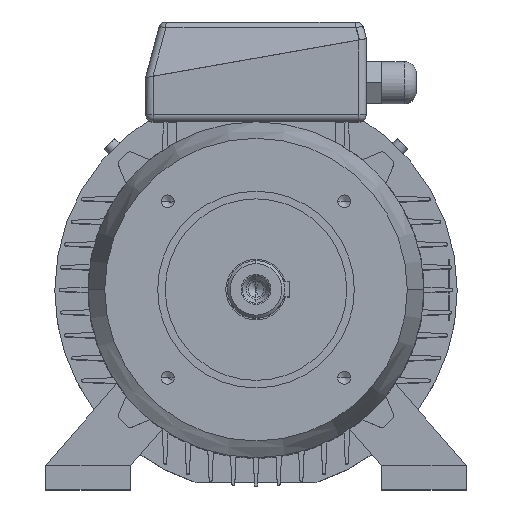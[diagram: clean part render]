
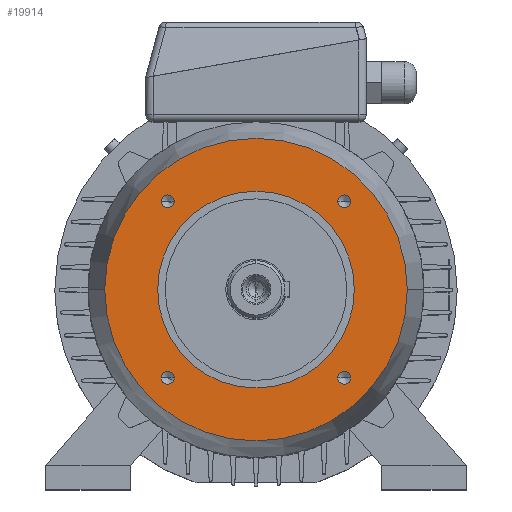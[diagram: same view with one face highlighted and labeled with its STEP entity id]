
A CAD part, top view. The second image highlights one B-rep face of the part: STEP entity #19914.
In plain terms, the highlighted planar face has unit normal (0, 0, 1).
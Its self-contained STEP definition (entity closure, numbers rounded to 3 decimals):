
#16631 = CARTESIAN_POINT ( 'NONE',  ( 62.586, -58.336, 58. ) ) ;
#16648 = VERTEX_POINT ( 'NONE', #16631 ) ;
#16789 = CIRCLE ( 'NONE', #16790, 100. ) ;
#16790 = AXIS2_PLACEMENT_3D ( 'NONE', #16791, #16792, #16793 ) ;
#16791 = CARTESIAN_POINT ( 'NONE',  ( 0., 0., 58. ) ) ;
#16792 = DIRECTION ( 'NONE',  ( 0., 0., 1. ) ) ;
#16793 = DIRECTION ( 'NONE',  ( 1., 0., 0. ) ) ;
#16874 = EDGE_CURVE ( 'NONE', #13652, #13910, #16789, .T. ) ;
#17068 = ORIENTED_EDGE ( 'NONE', *, *, #16874, .T. ) ;
#693 = EDGE_LOOP ( 'NONE', ( #10885, #9862 ) ) ;
#767 = ORIENTED_EDGE ( 'NONE', *, *, #18367, .F. ) ;
#1157 = EDGE_CURVE ( 'NONE', #18110, #19406, #3518, .T. ) ;
#17697 = EDGE_LOOP ( 'NONE', ( #17068, #4629 ) ) ;
#17884 = CARTESIAN_POINT ( 'NONE',  ( -54.086, -58.336, 58. ) ) ;
#1600 = ORIENTED_EDGE ( 'NONE', *, *, #1157, .F. ) ;
#17976 = ORIENTED_EDGE ( 'NONE', *, *, #4173, .F. ) ;
#18098 = CIRCLE ( 'NONE', #18099, 4.25 ) ;
#18099 = AXIS2_PLACEMENT_3D ( 'NONE', #18100, #18101, #18112 ) ;
#18100 = CARTESIAN_POINT ( 'NONE',  ( -58.336, -58.336, 58. ) ) ;
#18101 = DIRECTION ( 'NONE',  ( 0., 0., 1. ) ) ;
#18110 = VERTEX_POINT ( 'NONE', #17884 ) ;
#18112 = DIRECTION ( 'NONE',  ( 1., 0., 0. ) ) ;
#18260 = CIRCLE ( 'NONE', #18261, 4.25 ) ;
#18261 = AXIS2_PLACEMENT_3D ( 'NONE', #18262, #18263, #18264 ) ;
#18262 = CARTESIAN_POINT ( 'NONE',  ( 58.336, 58.336, 58. ) ) ;
#18263 = DIRECTION ( 'NONE',  ( 0., 0., 1. ) ) ;
#18264 = DIRECTION ( 'NONE',  ( 1., 0., 0. ) ) ;
#18367 = EDGE_CURVE ( 'NONE', #19406, #18110, #18098, .T. ) ;
#18585 = EDGE_CURVE ( 'NONE', #3926, #5220, #18260, .T. ) ;
#2214 = EDGE_LOOP ( 'NONE', ( #1600, #767 ) ) ;
#2497 = EDGE_CURVE ( 'NONE', #3366, #3628, #4404, .T. ) ;
#19021 = ORIENTED_EDGE ( 'NONE', *, *, #18585, .F. ) ;
#19051 = CARTESIAN_POINT ( 'NONE',  ( -62.586, -58.336, 58. ) ) ;
#2949 = ORIENTED_EDGE ( 'NONE', *, *, #2497, .F. ) ;
#19406 = VERTEX_POINT ( 'NONE', #19051 ) ;
#19500 = FACE_BOUND ( 'NONE', #19626, .T. ) ;
#19501 = FACE_OUTER_BOUND ( 'NONE', #17697, .T. ) ;
#19502 = FACE_BOUND ( 'NONE', #4347, .T. ) ;
#19503 = FACE_BOUND ( 'NONE', #2214, .T. ) ;
#19504 = FACE_BOUND ( 'NONE', #693, .T. ) ;
#19505 = FACE_BOUND ( 'NONE', #9568, .T. ) ;
#19506 = PLANE ( 'NONE',  #19507 ) ;
#19507 = AXIS2_PLACEMENT_3D ( 'NONE', #19508, #19509, #19510 ) ;
#19508 = CARTESIAN_POINT ( 'NONE',  ( 0., 100., 58. ) ) ;
#19509 = DIRECTION ( 'NONE',  ( 0., 0., -1. ) ) ;
#19510 = DIRECTION ( 'NONE',  ( -1., 0., 0. ) ) ;
#19626 = EDGE_LOOP ( 'NONE', ( #19021, #17976 ) ) ;
#3366 = VERTEX_POINT ( 'NONE', #4876 ) ;
#3518 = CIRCLE ( 'NONE', #3519, 4.25 ) ;
#3519 = AXIS2_PLACEMENT_3D ( 'NONE', #3520, #3521, #3522 ) ;
#3520 = CARTESIAN_POINT ( 'NONE',  ( -58.336, -58.336, 58. ) ) ;
#3521 = DIRECTION ( 'NONE',  ( 0., 0., 1. ) ) ;
#3522 = DIRECTION ( 'NONE',  ( 1., 0., 0. ) ) ;
#19914 = ADVANCED_FACE ( 'NONE', ( #19500, #19501, #19502, #19503, #19504, #19505 ), #19506, .F. ) ;
#3556 = ORIENTED_EDGE ( 'NONE', *, *, #3882, .F. ) ;
#3628 = VERTEX_POINT ( 'NONE', #5093 ) ;
#3882 = EDGE_CURVE ( 'NONE', #3628, #3366, #5286, .T. ) ;
#3926 = VERTEX_POINT ( 'NONE', #5315 ) ;
#4173 = EDGE_CURVE ( 'NONE', #5220, #3926, #5441, .T. ) ;
#4347 = EDGE_LOOP ( 'NONE', ( #3556, #2949 ) ) ;
#4404 = CIRCLE ( 'NONE', #4405, 65. ) ;
#4405 = AXIS2_PLACEMENT_3D ( 'NONE', #4410, #4411, #4412 ) ;
#4410 = CARTESIAN_POINT ( 'NONE',  ( 0., 0., 58. ) ) ;
#4411 = DIRECTION ( 'NONE',  ( 0., 0., 1. ) ) ;
#4412 = DIRECTION ( 'NONE',  ( 1., 0., 0. ) ) ;
#4629 = ORIENTED_EDGE ( 'NONE', *, *, #14165, .T. ) ;
#4876 = CARTESIAN_POINT ( 'NONE',  ( -65., 0., 58. ) ) ;
#5093 = CARTESIAN_POINT ( 'NONE',  ( 65., 0., 58. ) ) ;
#5220 = VERTEX_POINT ( 'NONE', #6086 ) ;
#5286 = CIRCLE ( 'NONE', #5287, 65. ) ;
#5287 = AXIS2_PLACEMENT_3D ( 'NONE', #5288, #5289, #5290 ) ;
#5288 = CARTESIAN_POINT ( 'NONE',  ( 0., 0., 58. ) ) ;
#5289 = DIRECTION ( 'NONE',  ( 0., 0., 1. ) ) ;
#5290 = DIRECTION ( 'NONE',  ( 1., 0., 0. ) ) ;
#5315 = CARTESIAN_POINT ( 'NONE',  ( 62.586, 58.336, 58. ) ) ;
#5441 = CIRCLE ( 'NONE', #5442, 4.25 ) ;
#5442 = AXIS2_PLACEMENT_3D ( 'NONE', #5443, #5444, #5445 ) ;
#5443 = CARTESIAN_POINT ( 'NONE',  ( 58.336, 58.336, 58. ) ) ;
#5444 = DIRECTION ( 'NONE',  ( 0., 0., 1. ) ) ;
#5445 = DIRECTION ( 'NONE',  ( 1., 0., 0. ) ) ;
#5607 = EDGE_CURVE ( 'NONE', #6684, #16648, #6391, .T. ) ;
#6086 = CARTESIAN_POINT ( 'NONE',  ( 54.086, 58.336, 58. ) ) ;
#6391 = CIRCLE ( 'NONE', #6392, 4.25 ) ;
#6392 = AXIS2_PLACEMENT_3D ( 'NONE', #6393, #6399, #6400 ) ;
#6393 = CARTESIAN_POINT ( 'NONE',  ( 58.336, -58.336, 58. ) ) ;
#6399 = DIRECTION ( 'NONE',  ( 0., 0., 1. ) ) ;
#6400 = DIRECTION ( 'NONE',  ( 1., 0., 0. ) ) ;
#6684 = VERTEX_POINT ( 'NONE', #7301 ) ;
#7301 = CARTESIAN_POINT ( 'NONE',  ( 54.086, -58.336, 58. ) ) ;
#7870 = ORIENTED_EDGE ( 'NONE', *, *, #14311, .F. ) ;
#8484 = EDGE_CURVE ( 'NONE', #14034, #15360, #9059, .T. ) ;
#8933 = ORIENTED_EDGE ( 'NONE', *, *, #8484, .F. ) ;
#9059 = CIRCLE ( 'NONE', #9065, 4.25 ) ;
#9065 = AXIS2_PLACEMENT_3D ( 'NONE', #9066, #9067, #9068 ) ;
#9066 = CARTESIAN_POINT ( 'NONE',  ( -58.336, 58.336, 58. ) ) ;
#9067 = DIRECTION ( 'NONE',  ( 0., 0., 1. ) ) ;
#9068 = DIRECTION ( 'NONE',  ( 1., 0., 0. ) ) ;
#9568 = EDGE_LOOP ( 'NONE', ( #8933, #7870 ) ) ;
#9862 = ORIENTED_EDGE ( 'NONE', *, *, #5607, .F. ) ;
#10474 = EDGE_CURVE ( 'NONE', #16648, #6684, #11035, .T. ) ;
#10885 = ORIENTED_EDGE ( 'NONE', *, *, #10474, .F. ) ;
#11035 = CIRCLE ( 'NONE', #11036, 4.25 ) ;
#11036 = AXIS2_PLACEMENT_3D ( 'NONE', #11037, #11038, #11039 ) ;
#11037 = CARTESIAN_POINT ( 'NONE',  ( 58.336, -58.336, 58. ) ) ;
#11038 = DIRECTION ( 'NONE',  ( 0., 0., 1. ) ) ;
#11039 = DIRECTION ( 'NONE',  ( 1., 0., 0. ) ) ;
#13617 = CARTESIAN_POINT ( 'NONE',  ( -100., 0., 58. ) ) ;
#13652 = VERTEX_POINT ( 'NONE', #13617 ) ;
#13897 = CARTESIAN_POINT ( 'NONE',  ( 100., 0., 58. ) ) ;
#13910 = VERTEX_POINT ( 'NONE', #13897 ) ;
#13964 = CARTESIAN_POINT ( 'NONE',  ( -54.086, 58.336, 58. ) ) ;
#14034 = VERTEX_POINT ( 'NONE', #13964 ) ;
#14048 = CIRCLE ( 'NONE', #14049, 100. ) ;
#14049 = AXIS2_PLACEMENT_3D ( 'NONE', #14050, #14051, #14052 ) ;
#14050 = CARTESIAN_POINT ( 'NONE',  ( 0., 0., 58. ) ) ;
#14051 = DIRECTION ( 'NONE',  ( 0., 0., 1. ) ) ;
#14052 = DIRECTION ( 'NONE',  ( 1., 0., 0. ) ) ;
#14152 = CIRCLE ( 'NONE', #14153, 4.25 ) ;
#14153 = AXIS2_PLACEMENT_3D ( 'NONE', #14154, #14155, #14156 ) ;
#14154 = CARTESIAN_POINT ( 'NONE',  ( -58.336, 58.336, 58. ) ) ;
#14155 = DIRECTION ( 'NONE',  ( 0., 0., 1. ) ) ;
#14156 = DIRECTION ( 'NONE',  ( 1., 0., 0. ) ) ;
#14165 = EDGE_CURVE ( 'NONE', #13910, #13652, #14048, .T. ) ;
#14311 = EDGE_CURVE ( 'NONE', #15360, #14034, #14152, .T. ) ;
#15360 = VERTEX_POINT ( 'NONE', #15732 ) ;
#15732 = CARTESIAN_POINT ( 'NONE',  ( -62.586, 58.336, 58. ) ) ;
